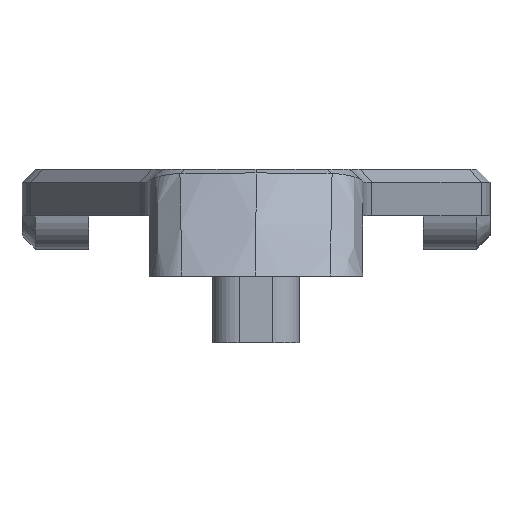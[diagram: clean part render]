
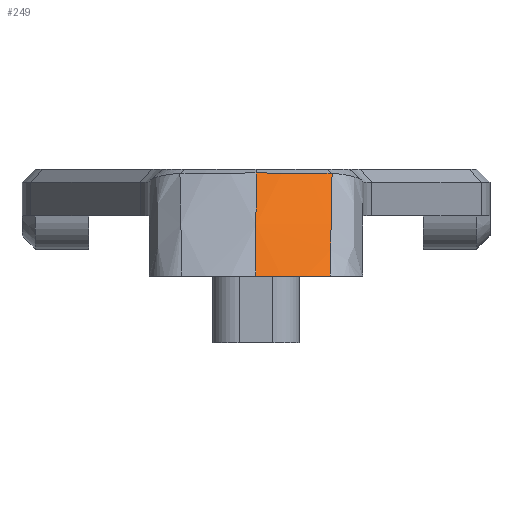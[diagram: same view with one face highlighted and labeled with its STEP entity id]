
A CAD part, front view. The second image highlights one B-rep face of the part: STEP entity #249.
In plain terms, the highlighted cylindrical face has radius 20.5 mm (diameter 41 mm), a partial arc.
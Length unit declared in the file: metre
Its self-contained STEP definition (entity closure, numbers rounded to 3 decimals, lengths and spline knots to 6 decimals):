
#249 = ADVANCED_FACE( '', ( #533 ), #534, .T. );
#533 = FACE_OUTER_BOUND( '', #876, .T. );
#534 = CYLINDRICAL_SURFACE( '', #877, 0.0205 );
#876 = EDGE_LOOP( '', ( #1631, #1632, #1633, #1634 ) );
#877 = AXIS2_PLACEMENT_3D( '', #1635, #1636, #1637 );
#1631 = ORIENTED_EDGE( '', *, *, #2003, .T. );
#1632 = ORIENTED_EDGE( '', *, *, #2086, .T. );
#1633 = ORIENTED_EDGE( '', *, *, #2020, .T. );
#1634 = ORIENTED_EDGE( '', *, *, #2042, .F. );
#1635 = CARTESIAN_POINT( '', ( 0.000235, -0.026578, -0.015155 ) );
#1636 = DIRECTION( '', ( 0.063, -0.706, -0.706 ) );
#1637 = DIRECTION( '', ( 0., -0.707, 0.707 ) );
#2003 = EDGE_CURVE( '', #2427, #2425, #2428, .T. );
#2020 = EDGE_CURVE( '', #2302, #2453, #2454, .T. );
#2042 = EDGE_CURVE( '', #2427, #2453, #2479, .F. );
#2086 = EDGE_CURVE( '', #2425, #2302, #2544, .T. );
#2302 = VERTEX_POINT( '', #2814 );
#2425 = VERTEX_POINT( '', #3020 );
#2427 = VERTEX_POINT( '', #3029 );
#2428 = ELLIPSE( '', #3030, 0.269953, 0.0205 );
#2453 = VERTEX_POINT( '', #3111 );
#2454 = ELLIPSE( '', #3112, 0.325239, 0.0205 );
#2479 = ELLIPSE( '', #3152, 0.029049, 0.0205 );
#2544 = B_SPLINE_CURVE_WITH_KNOTS( '', 3, ( #3289, #3290, #3291, #3292, #3293, #3294, #3295, #3296, #3297, #3298, #3299, #3300, #3301, #3302, #3303, #3304, #3305, #3306 ), .UNSPECIFIED., .F., .F., ( 4, 1, 1, 1, 1, 1, 1, 1, 1, 1, 1, 1, 1, 1, 1, 4 ), ( 0., 0.068475, 0.136605, 0.204408, 0.271904, 0.339113, 0.406056, 0.472752, 0.539224, 0.605491, 0.671575, 0.737497, 0.803279, 0.868942, 0.934509, 1. ), .UNSPECIFIED. );
#2814 = CARTESIAN_POINT( '', ( 0., -0.024654, 0.015709 ) );
#3020 = CARTESIAN_POINT( '', ( 0.005689, -0.023004, 0.01568 ) );
#3029 = CARTESIAN_POINT( '', ( 0.005544, -0.031088, 0.008 ) );
#3030 = AXIS2_PLACEMENT_3D( '', #3692, #3693, #3694 );
#3111 = CARTESIAN_POINT( '', ( 0., -0.032405, 0.008 ) );
#3112 = AXIS2_PLACEMENT_3D( '', #3707, #3708, #3709 );
#3152 = AXIS2_PLACEMENT_3D( '', #3735, #3736, #3737 );
#3289 = CARTESIAN_POINT( '', ( 0.005689, -0.023004, 0.01568 ) );
#3290 = CARTESIAN_POINT( '', ( 0.005567, -0.023065, 0.015681 ) );
#3291 = CARTESIAN_POINT( '', ( 0.005325, -0.023187, 0.015684 ) );
#3292 = CARTESIAN_POINT( '', ( 0.004956, -0.023358, 0.015687 ) );
#3293 = CARTESIAN_POINT( '', ( 0.004586, -0.023519, 0.01569 ) );
#3294 = CARTESIAN_POINT( '', ( 0.004213, -0.02367, 0.015693 ) );
#3295 = CARTESIAN_POINT( '', ( 0.003837, -0.023811, 0.015696 ) );
#3296 = CARTESIAN_POINT( '', ( 0.00346, -0.023942, 0.015699 ) );
#3297 = CARTESIAN_POINT( '', ( 0.003081, -0.024062, 0.015701 ) );
#3298 = CARTESIAN_POINT( '', ( 0.002701, -0.024172, 0.015703 ) );
#3299 = CARTESIAN_POINT( '', ( 0.002318, -0.024272, 0.015704 ) );
#3300 = CARTESIAN_POINT( '', ( 0.001935, -0.024362, 0.015706 ) );
#3301 = CARTESIAN_POINT( '', ( 0.00155, -0.024441, 0.015707 ) );
#3302 = CARTESIAN_POINT( '', ( 0.001164, -0.02451, 0.015707 ) );
#3303 = CARTESIAN_POINT( '', ( 0.000777, -0.024569, 0.015708 ) );
#3304 = CARTESIAN_POINT( '', ( 0.000389, -0.024618, 0.015708 ) );
#3305 = CARTESIAN_POINT( '', ( 0.00013, -0.024642, 0.015708 ) );
#3306 = CARTESIAN_POINT( '', ( 0., -0.024654, 0.015708 ) );
#3692 = CARTESIAN_POINT( '', ( 0.0045, -0.074326, -0.062903 ) );
#3693 = DIRECTION( '', ( -1., 0.009, 0.009 ) );
#3694 = DIRECTION( '', ( 0.013, 0.707, 0.707 ) );
#3707 = CARTESIAN_POINT( '', ( 0., -0.023943, -0.01252 ) );
#3708 = DIRECTION( '', ( 1., 0., 0. ) );
#3709 = DIRECTION( '', ( 0., 0.707, 0.707 ) );
#3735 = CARTESIAN_POINT( '', ( -0.001833, -0.003423, 0.008 ) );
#3736 = DIRECTION( '', ( 0., 0., 1. ) );
#3737 = DIRECTION( '', ( -0.089, 0.996, 0. ) );
